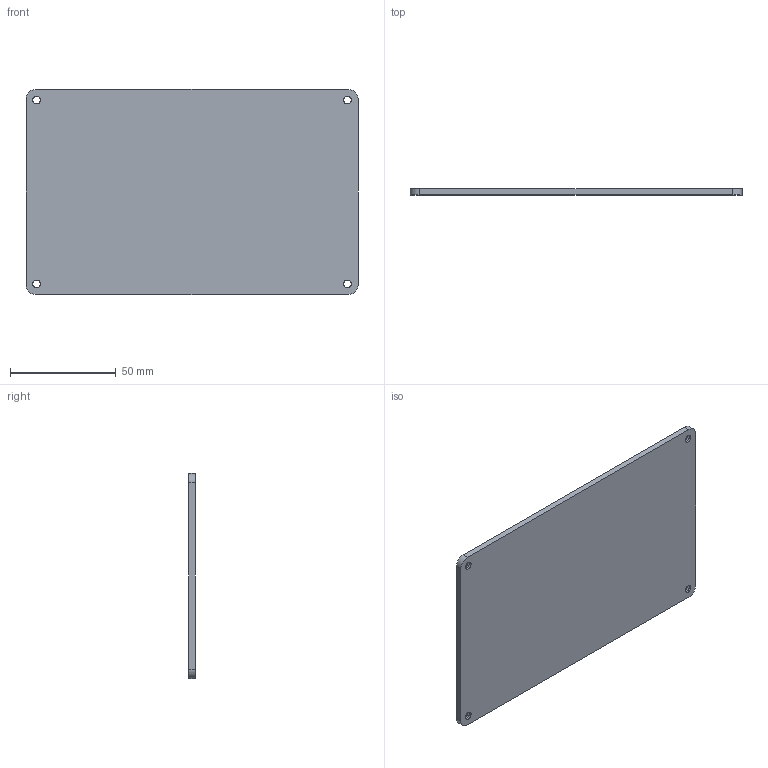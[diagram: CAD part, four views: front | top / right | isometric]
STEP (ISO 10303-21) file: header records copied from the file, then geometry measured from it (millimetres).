
FILE_DESCRIPTION (( 'STEP AP203' ), '1' );
FILE_NAME ('Gehäuseboden_Strapubox-3023-H-60-Pult.STEP', '2020-12-15T00:52:41', ( '' ), ( '' ), 'SwSTEP 2.0', 'SolidWorks 2017', '' );
FILE_SCHEMA (( 'CONFIG_CONTROL_DESIGN' ));
Length unit declared in the file: millimetre
Products named in the file (1): Gehäuseboden_Strapubox-3023-H-60-Pult
Bounding box: 157 x 3 x 97 mm (x, y, z)
Volume: 45384.4 mm3; surface area: 32015.7 mm2
Topology: 1 solids, 1 shells, 38 faces, 88 edges, 56 vertices
Faces by surface type: cylinder 20, plane 10, cone 8
Entity records: 1189 total; most frequent: DIRECTION 214, CARTESIAN_POINT 183, ORIENTED_EDGE 176, EDGE_CURVE 88, AXIS2_PLACEMENT_3D 87, VERTEX_POINT 56, EDGE_LOOP 50, CIRCLE 48
